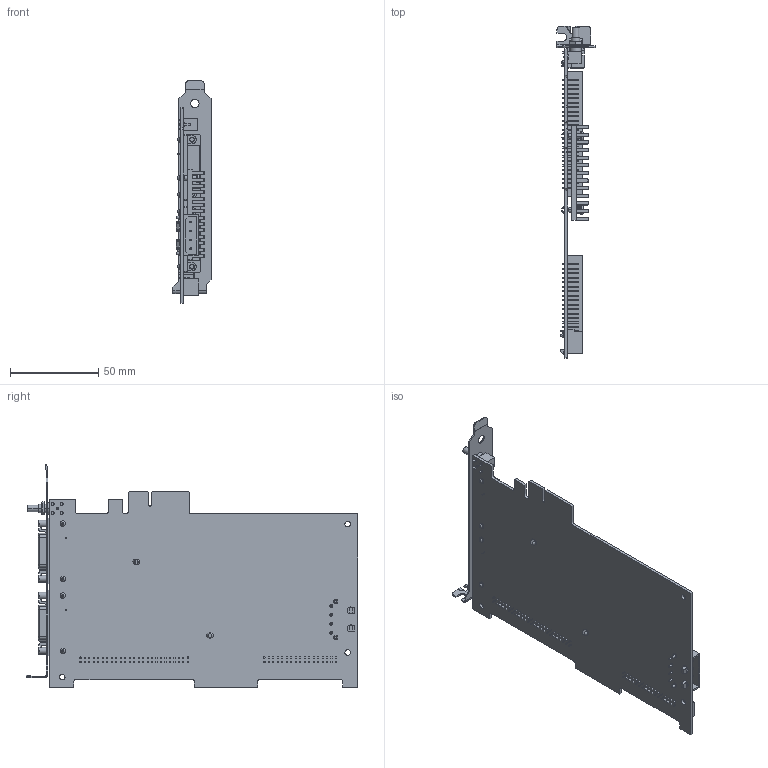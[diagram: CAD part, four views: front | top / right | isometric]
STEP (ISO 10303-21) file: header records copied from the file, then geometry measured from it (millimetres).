
FILE_DESCRIPTION((''),'2;1');
FILE_NAME('CU_1473R-LX110','2013-09-20T',('dkendric'),(''),'PRO/ENGINEER BY PARAMETRIC TECHNOLOGY CORPORATION, 2011490','PRO/ENGINEER BY PARAMETRIC TECHNOLOGY CORPORATION, 2011490','');
FILE_SCHEMA(('CONFIG_CONTROL_DESIGN'));
Products named in the file (1): CU_1473R-LX110
Bounding box: 21.59 x 188.15 x 126.34 mm (x, y, z)
Volume: 54175.4 mm3; surface area: 67387.3 mm2
Topology: 6 solids, 6 shells, 3370 faces, 9086 edges, 6014 vertices
Faces by surface type: plane 2536, cylinder 780, cone 28, bspline 14, torus 12
Entity records: 109116 total; most frequent: CARTESIAN_POINT 22259, ORIENTED_EDGE 18172, DIRECTION 17414, EDGE_CURVE 9086, VECTOR 7344, LINE 7344, VERTEX_POINT 6014, AXIS2_PLACEMENT_3D 5035
